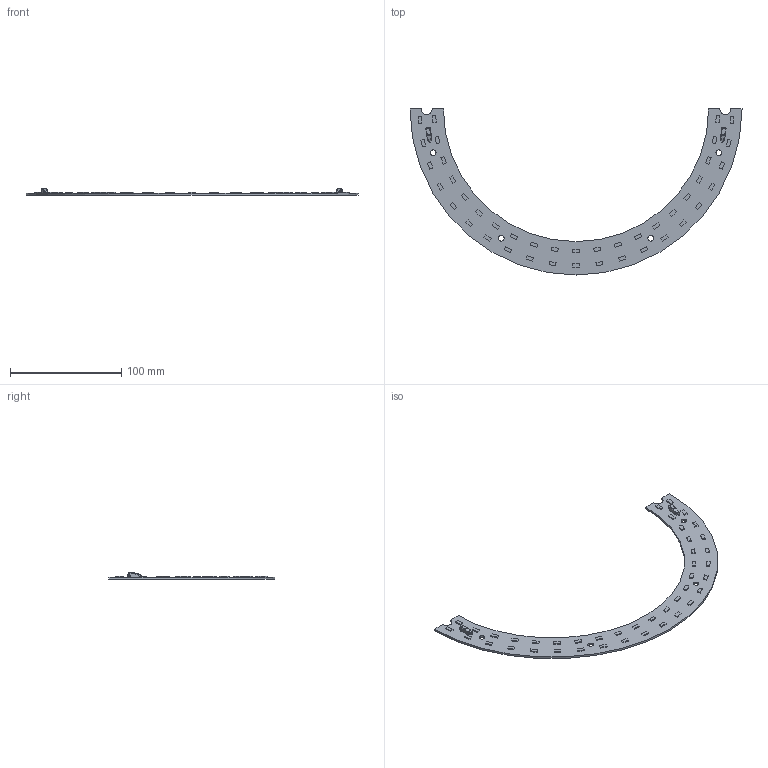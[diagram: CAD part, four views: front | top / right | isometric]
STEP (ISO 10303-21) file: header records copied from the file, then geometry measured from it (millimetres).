
FILE_DESCRIPTION(('ML42S1AH'),'2;1');
FILE_NAME('Z:\Mixdeal\Catalogo\Modelos 3D\STEP\ML42S1AH.stp','2015-06-26T15:23:59',('Nicolas Kretzig'),('MIXDEAL SA'),'Autodesk Inventor 2011','Autodesk Inventor 2011','');
FILE_SCHEMA(('AUTOMOTIVE_DESIGN { 1 0 10303 214 1 1 1 1 }'));
Length unit declared in the file: millimetre
Products named in the file (3): Placa ML42S1AH; ML42S1AH; 46-101-1001
Assembly tree (3 placements, depth 2):
  Placa ML42S1AH
    ML42S1AH
    46-101-1001  x2
Bounding box: 298 x 149 x 5.7 mm (x, y, z)
Volume: 22858.4 mm3; surface area: 27833.1 mm2
Topology: 3 solids, 5 shells, 872 faces, 2178 edges, 1448 vertices
Faces by surface type: plane 656, bspline 130, cylinder 76, torus 8, cone 2
Full cylindrical faces by diameter (mm): 0.6 x2, 5 x4
Entity records: 19300 total; most frequent: CARTESIAN_POINT 5965, ORIENTED_EDGE 2702, DIRECTION 2305, EDGE_CURVE 1351, VECTOR 1115, LINE 1115, VERTEX_POINT 901, EDGE_LOOP 648
